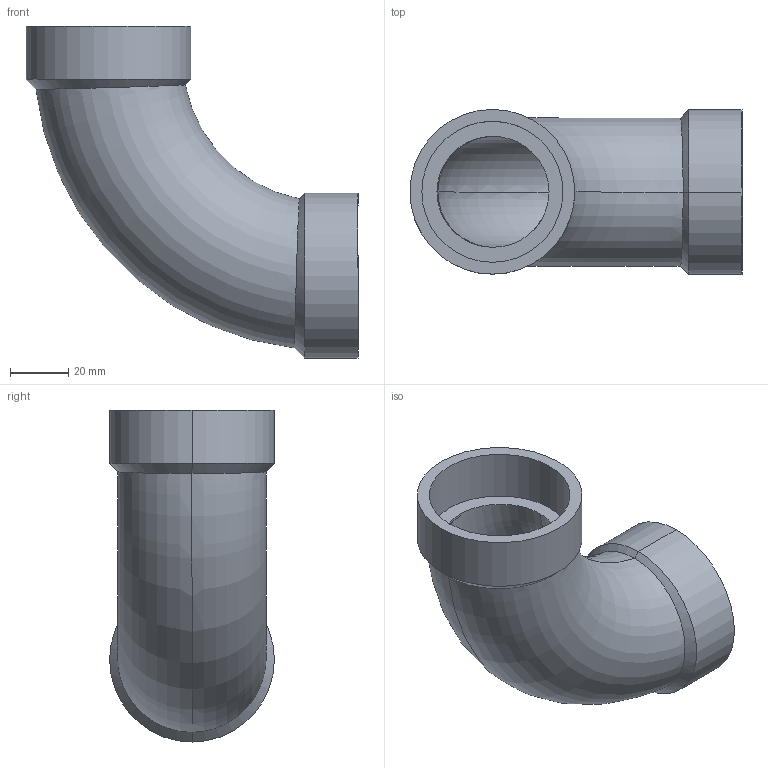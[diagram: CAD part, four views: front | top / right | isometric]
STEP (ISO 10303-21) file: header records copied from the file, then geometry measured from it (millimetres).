
FILE_DESCRIPTION(('starvars output'),'1');
FILE_NAME('cv20240419154056000004598.stp','15:40:57 2024/04/19',('Thomas Industrial Network Germany GmbH'),(' '),'Spatial InterOp 3D',' ',' ');
FILE_SCHEMA(('AUTOMOTIVE_DESIGN { 1 0 10303 214 3 1 1 }'));
Length unit declared in the file: millimetre
Products named in the file (1): 1
Bounding box: 114.12 x 56.64 x 114.12 mm (x, y, z)
Volume: 119534.7 mm3; surface area: 43980.9 mm2
Topology: 1 solids, 1 shells, 26 faces, 58 edges, 36 vertices
Faces by surface type: cylinder 12, plane 6, torus 4, cone 4
Entity records: 1890 total; most frequent: CARTESIAN_POINT 1081, DIRECTION 124, ORIENTED_EDGE 116, EDGE_CURVE 58, AXIS2_PLACEMENT_3D 55, VERTEX_POINT 36, EDGE_LOOP 30, CIRCLE 28
